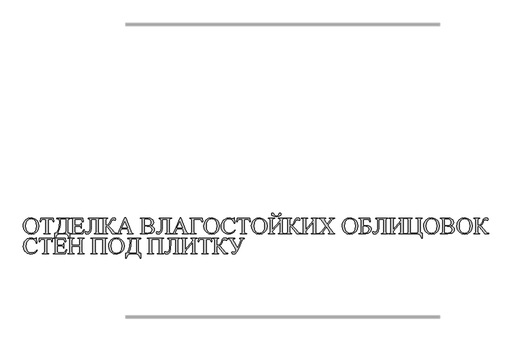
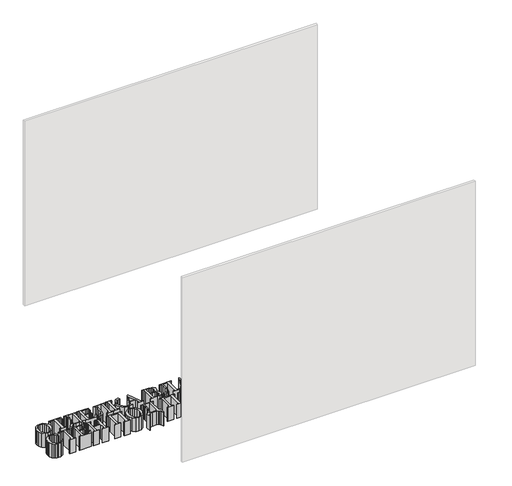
# One storey, part 11 of 17: 1 proxy.
"""IFC4 building model written with IfcOpenShell, lengths in millimetres."""

from ifc_helpers import new_model, si_unit, origin, origin_with_axes, place, context, project, spatial, polyline, outline, extrude, element, save

model = new_model("IFC4")

# Units and contexts
model_context = context("Model", 3, world=origin())
ifc_project = project(units=[si_unit("LENGTHUNIT", "METRE", prefix="MILLI")], contexts=[model_context])

# Site, building, storey
site = spatial("IfcSite", under=ifc_project)
building = spatial("IfcBuilding", under=site)
storey = spatial("IfcBuildingStorey", under=building, Name="Уровень 1", Elevation=0.0)

# Proxy
placement = place(None, origin())
element("IfcBuildingElementProxy", 1, Name="SG_Текст 2", ObjectType="SG_Текст 2", at=placement, inside=storey, context=model_context, shape_type="SweptSolid", body=[
    extrude(outline(polyline([(-694.4542029, 12219.3850863), (-666.748358, 12213.9243699), (-643.0048009, 12197.5422205), (-626.682991, 12172.994138), (-621.2423877, 12143.0356218), (-626.7232173, 12112.2273257), (-643.165706, 12087.1412168), (-667.3919784, 12070.4724553), (-696.2241589, 12064.9162014), (-725.2021597, 12070.3366916), (-749.1418199, 12086.5981621), (-765.2071873, 12111.4680548), (-770.5623098, 12142.7138117), (-769.0161124, 12159.485653), (-764.3775204, 12174.6434152), (-756.6465337, 12188.1870981), (-745.8231524, 12200.116702), (-722.2405004, 12214.5679902), (-694.4542029, 12219.3850863)]), holes=[polyline([(-696.5861954, 12211.6616421), (-715.0299411, 12207.9809382), (-729.4108334, 12196.9388265), (-740.9658301, 12174.3417181), (-744.8174956, 12143.2367532), (-740.8250381, 12111.1965275), (-728.8476656, 12087.4831401), (-714.6176218, 12076.3505193), (-696.4655165, 12072.6396457), (-676.8552089, 12076.7024992), (-660.9859445, 12088.8910596), (-650.4868875, 12109.8388908), (-646.9872019, 12140.1795565), (-650.8388674, 12173.3260047), (-662.3938641, 12196.8181476), (-677.1166797, 12207.9507685), (-696.5861954, 12211.6616421)])]), origin_with_axes(), (0.0, 0.0, 1.0), 150.0),
    extrude(outline(polyline([(-482.2203913, 12216.8106049), (-479.6459099, 12183.3423465), (-483.8294422, 12183.3423465), (-487.2486753, 12196.6170163), (-496.6012836, 12206.0500771), (-512.028059, 12209.0871606), (-533.7100196, 12209.0871606), (-533.7100196, 12093.235497), (-530.813728, 12074.9727695), (-518.1826786, 12070.0651643), (-513.1141683, 12070.0651643), (-513.1141683, 12067.4906828), (-574.9017223, 12067.4906828), (-574.9017223, 12070.0651643), (-569.7527594, 12070.0651643), (-561.8784667, 12071.583706), (-556.679221, 12076.1393313), (-554.3058709, 12093.235497), (-554.3058709, 12209.0871606), (-572.1663357, 12209.0871606), (-586.9696039, 12207.5585623), (-596.744588, 12199.4931947), (-601.5717407, 12183.3423465), (-605.7954992, 12183.3423465), (-603.2210178, 12216.8106049), (-482.2203913, 12216.8106049)])), origin_with_axes(), (0.0, 0.0, 1.0), 150.0),
    extrude(outline(polyline([(-448.7521329, 12216.8106049), (-325.1770251, 12216.8106049), (-325.1770251, 12211.6616421), (-342.0921725, 12207.2769784), (-345.7728764, 12188.6924407), (-345.7728764, 12106.4699405), (-343.0173767, 12076.9840831), (-337.179539, 12072.7603245), (-325.1770251, 12071.352405), (-325.1770251, 12023.7244988), (-330.3259879, 12023.7244988), (-340.6038004, 12050.4950829), (-348.1763961, 12058.9677414), (-356.6943092, 12064.0714497), (-378.235478, 12067.4906828), (-415.0827432, 12067.4906828), (-436.0506875, 12064.04128), (-450.6025415, 12053.6930715), (-459.6735658, 12039.3021227), (-464.1990214, 12023.7244988), (-469.3479843, 12023.7244988), (-469.3479843, 12071.352405), (-453.9966332, 12077.3964023), (-441.813101, 12092.4711978), (-432.837614, 12114.2939504), (-427.1103986, 12140.5818193), (-423.0073188, 12187.3649737), (-425.8633841, 12203.4554825), (-432.641511, 12209.9117992), (-448.7521329, 12211.6616421), (-448.7521329, 12216.8106049)]), holes=[polyline([(-410.1349117, 12209.0871606), (-414.0971995, 12153.1676141), (-420.5132899, 12116.8684318), (-429.4636355, 12093.2103556), (-441.0286887, 12075.2141271), (-386.6427688, 12075.2141271), (-369.2449061, 12077.8087216), (-366.3687277, 12094.7238691), (-366.3687277, 12209.0871606), (-410.1349117, 12209.0871606)])]), origin_with_axes(), (0.0, 0.0, 1.0), 150.0),
    extrude(outline(polyline([(-276.2618782, 12209.0871606), (-276.2618782, 12149.8740881), (-240.2191384, 12149.8740881), (-223.3643304, 12153.5346789), (-218.949497, 12160.1820703), (-217.0488056, 12170.4699394), (-214.4743242, 12170.4699394), (-214.4743242, 12121.5547925), (-217.0488056, 12121.5547925), (-220.1060023, 12134.5076522), (-226.5019796, 12140.1192171), (-240.2191384, 12142.1506439), (-276.2618782, 12142.1506439), (-276.2618782, 12092.1896139), (-275.3366739, 12079.9608272), (-272.098459, 12076.5013678), (-263.3492448, 12075.2141271), (-236.7999052, 12075.2141271), (-217.5114078, 12077.0645356), (-205.9463545, 12084.3857171), (-191.3039915, 12106.1079041), (-186.1550287, 12106.1079041), (-199.7515086, 12067.4906828), (-317.4535808, 12067.4906828), (-317.4535808, 12070.0651643), (-312.3448443, 12070.0651643), (-302.6905389, 12072.7200982), (-298.0846308, 12078.2109844), (-296.8577295, 12093.235497), (-296.8577295, 12191.0657907), (-299.6333423, 12209.5698759), (-312.3448443, 12214.2361235), (-317.4535808, 12214.2361235), (-317.4535808, 12216.8106049), (-201.6019172, 12216.8106049), (-199.0274357, 12183.3423465), (-204.1763986, 12183.3423465), (-209.4460402, 12200.3178333), (-218.0142362, 12207.3574309), (-234.0242925, 12209.0871606), (-276.2618782, 12209.0871606)])), origin_with_axes(), (0.0, 0.0, 1.0), 150.0),
    extrude(outline(polyline([(-72.8778464, 12209.0871606), (-119.2185119, 12209.0871606), (-119.2185119, 12166.8898012), (-122.0041812, 12114.2185262), (-130.3611893, 12083.9633413), (-143.6157459, 12069.6779864), (-161.0940612, 12064.9162014), (-173.926242, 12068.8986024), (-178.4315844, 12078.150645), (-175.5352928, 12085.1299032), (-168.4956952, 12088.0865342), (-160.5711196, 12084.4259434), (-151.5202084, 12080.3630899), (-142.6855134, 12084.3605757), (-135.650944, 12096.3530331), (-131.0500642, 12119.4982244), (-129.5164376, 12156.953912), (-129.5164376, 12188.4108568), (-133.1971414, 12207.2367521), (-150.1122889, 12211.6616421), (-150.1122889, 12216.8106049), (-31.6861438, 12216.8106049), (-31.6861438, 12214.2361235), (-48.6012912, 12209.8313467), (-52.2819951, 12191.0657907), (-52.2819951, 12093.235497), (-48.6012912, 12074.4699411), (-31.6861438, 12070.0651643), (-31.6861438, 12067.4906828), (-93.4736977, 12067.4906828), (-93.4736977, 12070.0651643), (-76.5585503, 12074.4699411), (-72.8778464, 12093.235497), (-72.8778464, 12209.0871606)])), origin_with_axes(), (0.0, 0.0, 1.0), 150.0),
    extrude(outline(polyline([(121.4150478, 12071.5937626), (121.4150478, 12067.4906828), (82.4357901, 12067.4906828), (55.6450929, 12105.3234918), (30.7450305, 12136.2977213), (17.2290031, 12139.5761624), (17.2290031, 12093.235497), (20.8493676, 12074.4699411), (37.8248544, 12070.0651643), (37.8248544, 12067.4906828), (-23.9626996, 12067.4906828), (-23.9626996, 12070.0651643), (-7.0877784, 12074.4297148), (-3.3668482, 12093.235497), (-3.3668482, 12191.0657907), (-7.0475521, 12209.8313467), (-23.9626996, 12214.2361235), (-23.9626996, 12216.8106049), (37.8248544, 12216.8106049), (37.8248544, 12214.2361235), (20.8493676, 12209.8313467), (17.2290031, 12191.0657907), (17.2290031, 12147.2996067), (34.1039242, 12148.9287707), (44.6432075, 12155.8476895), (53.9153632, 12167.4931953), (62.6846905, 12188.0085941), (70.8908501, 12206.633358), (81.1083232, 12215.6239299), (97.8424524, 12219.3850863), (110.7550857, 12216.2876633), (115.0592968, 12206.9953945), (111.6601768, 12199.4328553), (103.8763932, 12196.2147536), (93.3773362, 12200.277607), (84.3666512, 12203.9381978), (78.2120316, 12200.1971545), (70.0460983, 12181.1299015), (57.8575379, 12157.7483809), (42.6922333, 12144.8055778), (53.3924217, 12136.0161374), (69.3220254, 12116.2449246), (98.4056202, 12080.6849001), (108.8644509, 12074.0073389), (121.4150478, 12071.5937626)])), origin_with_axes(), (0.0, 0.0, 1.0), 150.0),
    extrude(outline(polyline([(226.6872019, 12116.4058297), (168.4395599, 12116.4058297), (158.8254809, 12094.0400224), (155.0844376, 12080.1217323), (158.3427656, 12073.6855287), (172.4219608, 12070.0651643), (172.4219608, 12067.4906828), (124.9549598, 12067.4906828), (124.9549598, 12070.0651643), (137.1032939, 12074.7314118), (149.6136646, 12098.1028759), (201.9882708, 12219.3850863), (207.4992701, 12219.3850863), (256.6557746, 12096.1317886), (268.1202622, 12075.4152584), (282.440815, 12070.0651643), (282.440815, 12067.4906828), (223.4288739, 12067.4906828), (223.4288739, 12070.0651643), (235.5168686, 12073.3838317), (238.674631, 12080.2826374), (234.2497411, 12097.4190293), (226.6872019, 12116.4058297)]), holes=[polyline([(223.5897789, 12124.129274), (198.7299428, 12184.750266), (171.7783405, 12124.129274), (223.5897789, 12124.129274)])]), origin_with_axes(), (0.0, 0.0, 1.0), 150.0),
    extrude(outline(polyline([(448.897129, 12142.8344905), (462.6142878, 12138.5906188), (472.3892719, 12132.3756597), (480.5049223, 12121.2430389), (483.2101391, 12107.87786), (481.455268, 12097.1223605), (476.1906546, 12086.8194066), (467.8688446, 12078.1053904), (456.9423834, 12072.1167041), (419.5721766, 12067.4906828), (349.3371055, 12067.4906828), (349.3371055, 12070.0651643), (354.6871997, 12070.0651643), (362.3603611, 12071.6038192), (367.5193805, 12076.2197839), (369.9329569, 12093.235497), (369.9329569, 12191.0657907), (366.8757602, 12209.2078395), (354.6871997, 12214.2361235), (349.3371055, 12214.2361235), (349.3371055, 12216.8106049), (413.2164256, 12216.8106049), (441.8977576, 12214.1556709), (456.3289328, 12208.5893605), (466.8782726, 12199.9356837), (473.3345893, 12188.9689963), (475.4866948, 12176.463654), (473.8022197, 12165.7131827), (468.7487943, 12156.1493866), (460.4169277, 12148.3354332), (448.897129, 12142.8344905)]), holes=[polyline([(390.5288082, 12148.8684313), (399.9417558, 12147.7018694), (411.5671485, 12147.2996067), (436.044835, 12150.7992924), (442.8732447, 12155.2241823), (446.9863811, 12161.4994807), (449.7418807, 12177.2681794), (447.1774559, 12189.4919378), (439.4841813, 12199.7747786), (426.873245, 12206.7590651), (409.5558349, 12209.0871606), (390.5288082, 12206.633358), (390.5288082, 12148.8684313)]), polyline([(390.5288082, 12078.150645), (416.072491, 12075.2141271), (433.8675881, 12077.4316003), (446.8657022, 12084.0840201), (454.8154193, 12093.9947679), (457.4653249, 12105.9872252), (452.6180592, 12122.5001099), (446.2824213, 12129.600047), (436.9700393, 12135.0104806), (410.2396815, 12139.5761624), (398.4332706, 12139.354918), (390.5288082, 12138.6107319), (390.5288082, 12078.150645)])]), origin_with_axes(), (0.0, 0.0, 1.0), 150.0),
    extrude(outline(polyline([(606.785247, 12209.0871606), (560.4445815, 12209.0871606), (560.4445815, 12166.8898012), (557.6589122, 12114.2185262), (549.3019041, 12083.9633413), (536.0473475, 12069.6779864), (518.5690323, 12064.9162014), (505.7368515, 12068.8986024), (501.231509, 12078.150645), (504.1278006, 12085.1299032), (511.1673982, 12088.0865342), (519.0919738, 12084.4259434), (528.142885, 12080.3630899), (536.97758, 12084.3605757), (544.0121494, 12096.3530331), (548.6130292, 12119.4982244), (550.1466559, 12156.953912), (550.1466559, 12188.4108568), (546.465952, 12207.2367521), (529.5508045, 12211.6616421), (529.5508045, 12216.8106049), (647.9769496, 12216.8106049), (647.9769496, 12214.2361235), (631.0618022, 12209.8313467), (627.3810983, 12191.0657907), (627.3810983, 12093.235497), (631.0618022, 12074.4699411), (647.9769496, 12070.0651643), (647.9769496, 12067.4906828), (586.1893957, 12067.4906828), (586.1893957, 12070.0651643), (603.1045431, 12074.4699411), (606.785247, 12093.235497), (606.785247, 12209.0871606)])), origin_with_axes(), (0.0, 0.0, 1.0), 150.0),
    extrude(outline(polyline([(754.4558919, 12116.4058297), (696.2082499, 12116.4058297), (686.5941708, 12094.0400224), (682.8531275, 12080.1217323), (686.1114556, 12073.6855287), (700.1906508, 12070.0651643), (700.1906508, 12067.4906828), (652.7236497, 12067.4906828), (652.7236497, 12070.0651643), (664.8719839, 12074.7314118), (677.3823545, 12098.1028759), (729.7569608, 12219.3850863), (735.2679601, 12219.3850863), (784.4244646, 12096.1317886), (795.8889521, 12075.4152584), (810.209505, 12070.0651643), (810.209505, 12067.4906828), (751.1975638, 12067.4906828), (751.1975638, 12070.0651643), (763.2855586, 12073.3838317), (766.4433209, 12080.2826374), (762.018431, 12097.4190293), (754.4558919, 12116.4058297)]), holes=[polyline([(751.3584689, 12124.129274), (726.4986328, 12184.750266), (699.5470304, 12124.129274), (751.3584689, 12124.129274)])]), origin_with_axes(), (0.0, 0.0, 1.0), 150.0),
    extrude(outline(polyline([(943.3986919, 12216.8106049), (944.0423123, 12183.3423465), (938.8933494, 12183.3423465), (934.1265362, 12199.6540998), (923.6475923, 12207.4378835), (905.706675, 12209.0871606), (861.658907, 12209.0871606), (861.658907, 12093.235497), (865.3194978, 12074.4699411), (882.2547583, 12070.0651643), (882.2547583, 12067.4906828), (820.4672044, 12067.4906828), (820.4672044, 12070.0651643), (837.3823518, 12074.4699411), (841.0630557, 12093.235497), (841.0630557, 12191.0657907), (837.3823518, 12209.8313467), (820.4672044, 12214.2361235), (820.4672044, 12216.8106049), (943.3986919, 12216.8106049)])), origin_with_axes(), (0.0, 0.0, 1.0), 150.0),
    extrude(outline(polyline([(1033.0228262, 12219.3850863), (1060.7286711, 12213.9243699), (1084.4722282, 12197.5422205), (1100.7940381, 12172.994138), (1106.2346414, 12143.0356218), (1100.7538118, 12112.2273257), (1084.3113231, 12087.1412168), (1060.0850507, 12070.4724553), (1031.2528702, 12064.9162014), (1002.2748694, 12070.3366916), (978.3352092, 12086.5981621), (962.2698418, 12111.4680548), (956.9147193, 12142.7138117), (958.4609167, 12159.485653), (963.0995087, 12174.6434152), (970.8304954, 12188.1870981), (981.6538767, 12200.116702), (1005.2365287, 12214.5679902), (1033.0228262, 12219.3850863)]), holes=[polyline([(1030.8908337, 12211.6616421), (1012.447088, 12207.9809382), (998.0661957, 12196.9388265), (986.511199, 12174.3417181), (982.6595335, 12143.2367532), (986.651991, 12111.1965275), (998.6293635, 12087.4831401), (1012.8594073, 12076.3505193), (1031.0115126, 12072.6396457), (1050.6218202, 12076.7024992), (1066.4910845, 12088.8910596), (1076.9901416, 12109.8388908), (1080.4898272, 12140.1795565), (1076.6381617, 12173.3260047), (1065.083165, 12196.8181476), (1050.3603494, 12207.9507685), (1030.8908337, 12211.6616421)])]), origin_with_axes(), (0.0, 0.0, 1.0), 150.0),
    extrude(outline(polyline([(1247.8311192, 12219.3850863), (1250.4056006, 12167.895458), (1247.8311192, 12167.895458), (1239.7204971, 12187.9231132), (1228.7437531, 12201.4240558), (1215.1020185, 12209.1022455), (1198.9964248, 12211.6616421), (1185.1334458, 12209.8062053), (1172.6683298, 12204.2398949), (1162.1592162, 12194.6057027), (1154.1642446, 12180.5466206), (1149.1108192, 12162.2889213), (1147.426344, 12140.0588777), (1149.0303666, 12121.4341137), (1153.8424344, 12105.4642837), (1161.8826606, 12092.5315372), (1173.1711582, 12083.0180239), (1186.9888826, 12077.1651013), (1202.6167893, 12075.2141271), (1227.9794539, 12080.9061446), (1239.5193657, 12089.4089729), (1252.1353303, 12103.5334226), (1255.5545634, 12100.9589412), (1243.4414272, 12084.7628384), (1229.467826, 12073.5849631), (1213.1611009, 12067.0833918), (1194.0485934, 12064.9162014), (1176.6079903, 12066.6182756), (1161.254125, 12071.724498), (1147.9869977, 12080.2348687), (1136.8066082, 12092.1493876), (1125.4627994, 12114.2134979), (1121.6815299, 12139.8577464), (1124.180587, 12161.0821332), (1131.6777585, 12180.5063943), (1143.5595936, 12196.9438547), (1159.2126417, 12209.2078395), (1177.5658784, 12216.8407746), (1197.5482791, 12219.3850863), (1229.4074866, 12213.4718243), (1236.0045952, 12211.6616421), (1241.1937843, 12213.2304667), (1245.2566378, 12219.3850863), (1247.8311192, 12219.3850863)])), origin_with_axes(), (0.0, 0.0, 1.0), 150.0),
    extrude(outline(polyline([(1397.1510412, 12216.8106049), (1399.7255226, 12183.3423465), (1395.5419903, 12183.3423465), (1392.1227572, 12196.6170163), (1382.7701489, 12206.0500771), (1367.3433736, 12209.0871606), (1345.6614129, 12209.0871606), (1345.6614129, 12093.235497), (1348.5577045, 12074.9727695), (1361.188754, 12070.0651643), (1366.2572642, 12070.0651643), (1366.2572642, 12067.4906828), (1304.4697103, 12067.4906828), (1304.4697103, 12070.0651643), (1309.6186731, 12070.0651643), (1317.4929659, 12071.583706), (1322.6922116, 12076.1393313), (1325.0655616, 12093.235497), (1325.0655616, 12209.0871606), (1307.2050968, 12209.0871606), (1292.4018287, 12207.5585623), (1282.6268445, 12199.4931947), (1277.7996919, 12183.3423465), (1273.5759333, 12183.3423465), (1276.1504147, 12216.8106049), (1397.1510412, 12216.8106049)])), origin_with_axes(), (0.0, 0.0, 1.0), 150.0),
    extrude(outline(polyline([(1488.7060365, 12219.3850863), (1516.4118814, 12213.9243699), (1540.1554385, 12197.5422205), (1556.4772484, 12172.994138), (1561.9178517, 12143.0356218), (1556.4370222, 12112.2273257), (1539.9945334, 12087.1412168), (1515.7682611, 12070.4724553), (1486.9360805, 12064.9162014), (1457.9580798, 12070.3366916), (1434.0184196, 12086.5981621), (1417.9530522, 12111.4680548), (1412.5979297, 12142.7138117), (1414.144127, 12159.485653), (1418.782719, 12174.6434152), (1426.5137057, 12188.1870981), (1437.337087, 12200.116702), (1460.9197391, 12214.5679902), (1488.7060365, 12219.3850863)]), holes=[polyline([(1486.5740441, 12211.6616421), (1468.1302983, 12207.9809382), (1453.7494061, 12196.9388265), (1442.1944094, 12174.3417181), (1438.3427438, 12143.2367532), (1442.3352014, 12111.1965275), (1454.3125739, 12087.4831401), (1468.5426176, 12076.3505193), (1486.6947229, 12072.6396457), (1506.3050306, 12076.7024992), (1522.1742949, 12088.8910596), (1532.6733519, 12109.8388908), (1536.1730376, 12140.1795565), (1532.321372, 12173.3260047), (1520.7663754, 12196.8181476), (1506.0435598, 12207.9507685), (1486.5740441, 12211.6616421)])]), origin_with_axes(), (0.0, 0.0, 1.0), 150.0),
    extrude(outline(polyline([(1686.8606529, 12265.7257518), (1693.1560645, 12262.8294602), (1695.7908853, 12255.9909939), (1693.0906968, 12246.9400827), (1684.9901312, 12239.2568647), (1671.0265865, 12234.0073362), (1650.7374605, 12232.2574934), (1630.3729103, 12234.0073362), (1616.4244504, 12239.2568647), (1608.3691395, 12246.9400827), (1605.6840358, 12255.9909939), (1608.2585172, 12262.7691208), (1614.734947, 12265.7257518), (1621.3521688, 12262.9702521), (1629.1359524, 12250.8018048), (1638.0561283, 12240.7552934), (1650.7374605, 12237.4064562), (1663.3584534, 12240.7552934), (1672.3389687, 12250.8018048), (1679.9417341, 12263.0305915), (1686.8606529, 12265.7257518)])), origin_with_axes(), (0.0, 0.0, 1.0), 150.0),
    extrude(outline(polyline([(1688.067441, 12191.0657907), (1683.9844744, 12210.2134963), (1667.4715897, 12214.2361235), (1667.4715897, 12216.8106049), (1729.2591437, 12216.8106049), (1729.2591437, 12214.2361235), (1712.3439963, 12209.8313467), (1708.6632924, 12191.0657907), (1708.6632924, 12093.235497), (1712.3439963, 12074.4699411), (1729.2591437, 12070.0651643), (1729.2591437, 12067.4906828), (1667.4715897, 12067.4906828), (1667.4715897, 12070.0651643), (1684.4470766, 12074.5302805), (1688.067441, 12093.235497), (1688.067441, 12178.1933837), (1613.40748, 12093.235497), (1614.6142682, 12078.4121157), (1619.7230048, 12072.4787406), (1634.0033313, 12070.0651643), (1634.0033313, 12067.4906828), (1572.2157774, 12067.4906828), (1572.2157774, 12070.0651643), (1589.1309248, 12074.4699411), (1592.8116287, 12093.235497), (1592.8116287, 12191.0657907), (1589.1309248, 12209.8313467), (1572.2157774, 12214.2361235), (1572.2157774, 12216.8106049), (1634.0033313, 12216.8106049), (1634.0033313, 12214.2361235), (1617.0680708, 12209.8313467), (1613.40748, 12191.0657907), (1613.40748, 12106.1079041), (1688.067441, 12191.0657907)])), origin_with_axes(), (0.0, 0.0, 1.0), 150.0),
    extrude(outline(polyline([(1882.3603353, 12071.5937626), (1882.3603353, 12067.4906828), (1843.3810776, 12067.4906828), (1816.5903804, 12105.3234918), (1791.690318, 12136.2977213), (1778.1742906, 12139.5761624), (1778.1742906, 12093.235497), (1781.794655, 12074.4699411), (1798.7701419, 12070.0651643), (1798.7701419, 12067.4906828), (1736.9825879, 12067.4906828), (1736.9825879, 12070.0651643), (1753.8575091, 12074.4297148), (1757.5784392, 12093.235497), (1757.5784392, 12191.0657907), (1753.8977353, 12209.8313467), (1736.9825879, 12214.2361235), (1736.9825879, 12216.8106049), (1798.7701419, 12216.8106049), (1798.7701419, 12214.2361235), (1781.794655, 12209.8313467), (1778.1742906, 12191.0657907), (1778.1742906, 12147.2996067), (1795.0492117, 12148.9287707), (1805.588495, 12155.8476895), (1814.8606507, 12167.4931953), (1823.629978, 12188.0085941), (1831.8361375, 12206.633358), (1842.0536107, 12215.6239299), (1858.7877398, 12219.3850863), (1871.7003732, 12216.2876633), (1876.0045843, 12206.9953945), (1872.6054643, 12199.4328553), (1864.8216807, 12196.2147536), (1854.3226236, 12200.277607), (1845.3119387, 12203.9381978), (1839.1573191, 12200.1971545), (1830.9913858, 12181.1299015), (1818.8028254, 12157.7483809), (1803.6375208, 12144.8055778), (1814.3377092, 12136.0161374), (1830.2673129, 12116.2449246), (1859.3509077, 12080.6849001), (1869.8097384, 12074.0073389), (1882.3603353, 12071.5937626)])), origin_with_axes(), (0.0, 0.0, 1.0), 150.0),
    extrude(outline(polyline([(2004.728655, 12191.0657907), (2000.6456884, 12210.2134963), (1984.1328037, 12214.2361235), (1984.1328037, 12216.8106049), (2045.9203577, 12216.8106049), (2045.9203577, 12214.2361235), (2029.0052102, 12209.8313467), (2025.3245063, 12191.0657907), (2025.3245063, 12093.235497), (2029.0052102, 12074.4699411), (2045.9203577, 12070.0651643), (2045.9203577, 12067.4906828), (1984.1328037, 12067.4906828), (1984.1328037, 12070.0651643), (2001.1082905, 12074.5302805), (2004.728655, 12093.235497), (2004.728655, 12178.1933837), (1930.068694, 12093.235497), (1931.2754822, 12078.4121157), (1936.3842187, 12072.4787406), (1950.6645453, 12070.0651643), (1950.6645453, 12067.4906828), (1888.8769914, 12067.4906828), (1888.8769914, 12070.0651643), (1905.7921388, 12074.4699411), (1909.4728427, 12093.235497), (1909.4728427, 12191.0657907), (1905.7921388, 12209.8313467), (1888.8769914, 12214.2361235), (1888.8769914, 12216.8106049), (1950.6645453, 12216.8106049), (1950.6645453, 12214.2361235), (1933.7292848, 12209.8313467), (1930.068694, 12191.0657907), (1930.068694, 12106.1079041), (2004.728655, 12191.0657907)])), origin_with_axes(), (0.0, 0.0, 1.0), 150.0),
    extrude(outline(polyline([(2142.5840895, 12149.9143144), (2174.6444284, 12102.5679921), (2194.5162068, 12076.1594445), (2210.9285258, 12070.0651643), (2210.9285258, 12067.4906828), (2147.7732786, 12067.4906828), (2147.7732786, 12070.0651643), (2157.2666788, 12071.4730838), (2161.0881747, 12074.7314118), (2162.5765468, 12079.1563018), (2161.6111162, 12084.5868485), (2155.4967229, 12095.005453), (2129.7519087, 12133.0192801), (2099.0592631, 12092.7527817), (2093.0856617, 12083.7219836), (2092.100118, 12079.0356229), (2095.0768622, 12072.8608902), (2106.4608972, 12070.0651643), (2106.4608972, 12067.4906828), (2052.7588239, 12067.4906828), (2052.7588239, 12070.0651643), (2062.4935818, 12072.5189669), (2075.5268939, 12080.7452395), (2089.6865417, 12096.5742776), (2123.9593255, 12141.5874761), (2094.8355045, 12185.1525287), (2074.360332, 12208.3832009), (2055.0114952, 12214.2361235), (2055.0114952, 12216.8106049), (2123.9995518, 12216.8106049), (2123.9995518, 12214.2361235), (2111.8914439, 12211.1387005), (2108.6331159, 12205.0645334), (2113.9429838, 12192.1921264), (2136.7915063, 12158.4422841), (2163.3408459, 12193.2782357), (2169.0529766, 12201.3838295), (2170.0988596, 12205.9092851), (2168.7713927, 12209.9721386), (2164.5677472, 12213.1902404), (2154.0485771, 12214.2361235), (2154.0485771, 12216.8106049), (2207.3483876, 12216.8106049), (2207.3483876, 12214.2361235), (2197.0504619, 12212.1845836), (2186.1089159, 12205.1852122), (2172.069947, 12188.8533458), (2142.5840895, 12149.9143144)])), origin_with_axes(), (0.0, 0.0, 1.0), 150.0),
    extrude(outline(polyline([(2356.3062732, 12219.3850863), (2384.0121181, 12213.9243699), (2407.7556752, 12197.5422205), (2424.0774851, 12172.994138), (2429.5180884, 12143.0356218), (2424.0372588, 12112.2273257), (2407.5947701, 12087.1412168), (2383.3684977, 12070.4724553), (2354.5363172, 12064.9162014), (2325.5583165, 12070.3366916), (2301.6186563, 12086.5981621), (2285.5532888, 12111.4680548), (2280.1981664, 12142.7138117), (2281.7443637, 12159.485653), (2286.3829557, 12174.6434152), (2294.1139424, 12188.1870981), (2304.9373237, 12200.116702), (2328.5199757, 12214.5679902), (2356.3062732, 12219.3850863)]), holes=[polyline([(2354.1742808, 12211.6616421), (2335.730535, 12207.9809382), (2321.3496427, 12196.9388265), (2309.7946461, 12174.3417181), (2305.9429805, 12143.2367532), (2309.935438, 12111.1965275), (2321.9128105, 12087.4831401), (2336.1428543, 12076.3505193), (2354.2949596, 12072.6396457), (2373.9052672, 12076.7024992), (2389.7745316, 12088.8910596), (2400.2735886, 12109.8388908), (2403.7732743, 12140.1795565), (2399.9216087, 12173.3260047), (2388.3666121, 12196.8181476), (2373.6437965, 12207.9507685), (2354.1742808, 12211.6616421)])]), origin_with_axes(), (0.0, 0.0, 1.0), 150.0),
    extrude(outline(polyline([(2545.9329199, 12216.8106049), (2547.9442335, 12183.3423465), (2542.7952706, 12183.3423465), (2538.3452393, 12196.9941376), (2531.9945166, 12204.561705), (2521.8524677, 12207.9557967), (2506.0284579, 12209.0871606), (2481.0077167, 12209.0871606), (2481.0077167, 12149.8740881), (2487.1221101, 12149.8740881), (2528.4344915, 12146.3945156), (2540.4068357, 12141.320977), (2549.9354339, 12133.0595064), (2556.1654778, 12122.218526), (2558.2421591, 12109.4064584), (2555.1497645, 12093.7332971), (2545.8725805, 12080.1016191), (2529.0228007, 12070.6434169), (2503.2126189, 12067.4906828), (2439.8160141, 12067.4906828), (2439.8160141, 12070.0651643), (2456.7311615, 12074.4699411), (2460.4118654, 12093.235497), (2460.4118654, 12191.0657907), (2458.7827014, 12206.4121135), (2453.4728334, 12212.0236785), (2439.8160141, 12214.2361235), (2439.8160141, 12216.8106049), (2545.9329199, 12216.8106049)]), holes=[polyline([(2481.0077167, 12076.7829517), (2496.3741526, 12075.2141271), (2509.5130588, 12077.4869115), (2521.3345545, 12084.3052646), (2529.7066474, 12095.1361883), (2532.497345, 12109.4466846), (2529.5809403, 12123.9432275), (2520.8317261, 12134.1255026), (2507.5972826, 12140.1443585), (2491.2251898, 12142.1506439), (2481.0077167, 12141.2656659), (2481.0077167, 12076.7829517)])]), origin_with_axes(), (0.0, 0.0, 1.0), 150.0),
    extrude(outline(polyline([(2676.6683042, 12209.0871606), (2630.3276387, 12209.0871606), (2630.3276387, 12166.8898012), (2627.5419694, 12114.2185262), (2619.1849614, 12083.9633413), (2605.9304047, 12069.6779864), (2588.4520895, 12064.9162014), (2575.6199087, 12068.8986024), (2571.1145662, 12078.150645), (2574.0108578, 12085.1299032), (2581.0504554, 12088.0865342), (2588.975031, 12084.4259434), (2598.0259422, 12080.3630899), (2606.8606373, 12084.3605757), (2613.8952066, 12096.3530331), (2618.4960865, 12119.4982244), (2620.0297131, 12156.953912), (2620.0297131, 12188.4108568), (2616.3490092, 12207.2367521), (2599.4338618, 12211.6616421), (2599.4338618, 12216.8106049), (2717.8600068, 12216.8106049), (2717.8600068, 12214.2361235), (2700.9448594, 12209.8313467), (2697.2641555, 12191.0657907), (2697.2641555, 12093.235497), (2700.9448594, 12074.4699411), (2717.8600068, 12070.0651643), (2717.8600068, 12067.4906828), (2656.0724529, 12067.4906828), (2656.0724529, 12070.0651643), (2672.9876003, 12074.4699411), (2676.6683042, 12093.235497), (2676.6683042, 12209.0871606)])), origin_with_axes(), (0.0, 0.0, 1.0), 150.0),
    extrude(outline(polyline([(2841.4351147, 12191.0657907), (2837.3521481, 12210.2134963), (2820.8392634, 12214.2361235), (2820.8392634, 12216.8106049), (2882.6268174, 12216.8106049), (2882.6268174, 12214.2361235), (2865.7116699, 12209.8313467), (2862.030966, 12191.0657907), (2862.030966, 12093.235497), (2865.7116699, 12074.4699411), (2882.6268174, 12070.0651643), (2882.6268174, 12067.4906828), (2820.8392634, 12067.4906828), (2820.8392634, 12070.0651643), (2837.8147502, 12074.5302805), (2841.4351147, 12093.235497), (2841.4351147, 12178.1933837), (2766.7751537, 12093.235497), (2767.9819419, 12078.4121157), (2773.0906784, 12072.4787406), (2787.371005, 12070.0651643), (2787.371005, 12067.4906828), (2725.5834511, 12067.4906828), (2725.5834511, 12070.0651643), (2742.4985985, 12074.4699411), (2746.1793024, 12093.235497), (2746.1793024, 12191.0657907), (2742.4985985, 12209.8313467), (2725.5834511, 12214.2361235), (2725.5834511, 12216.8106049), (2787.371005, 12216.8106049), (2787.371005, 12214.2361235), (2770.4357445, 12209.8313467), (2766.7751537, 12191.0657907), (2766.7751537, 12106.1079041), (2841.4351147, 12191.0657907)])), origin_with_axes(), (0.0, 0.0, 1.0), 150.0),
    extrude(outline(polyline([(3047.3936279, 12072.6396457), (3047.3936279, 12023.7244988), (3042.2446651, 12023.7244988), (3037.0755891, 12040.0060824), (3027.7632071, 12054.2562393), (3013.2515794, 12064.182072), (2992.4847665, 12067.4906828), (2890.3502616, 12067.4906828), (2890.3502616, 12070.0651643), (2907.265409, 12074.4699411), (2910.9461129, 12093.235497), (2910.9461129, 12191.0657907), (2907.265409, 12209.8313467), (2890.3502616, 12214.2361235), (2890.3502616, 12216.8106049), (2952.1378155, 12216.8106049), (2952.1378155, 12214.2361235), (2935.2226681, 12209.8313467), (2931.5419642, 12191.0657907), (2931.5419642, 12089.8967164), (2932.8493181, 12077.2254407), (2947.1899841, 12075.2141271), (2988.6230443, 12075.2141271), (3005.0152502, 12077.4064589), (3006.2019252, 12091.9884826), (3006.2019252, 12191.0657907), (3002.5614476, 12209.8313467), (2985.6060739, 12214.2361235), (2985.6060739, 12216.8106049), (3047.3936279, 12216.8106049), (3047.3936279, 12214.2361235), (3030.4784805, 12209.8313467), (3026.7977766, 12191.0657907), (3026.7977766, 12095.4881682), (3030.257236, 12076.4008021), (3047.3936279, 12072.6396457)])), origin_with_axes(), (0.0, 0.0, 1.0), 150.0),
    extrude(outline(polyline([(3136.3741418, 12219.3850863), (3164.0799867, 12213.9243699), (3187.8235438, 12197.5422205), (3204.1453537, 12172.994138), (3209.585957, 12143.0356218), (3204.1051274, 12112.2273257), (3187.6626387, 12087.1412168), (3163.4363663, 12070.4724553), (3134.6041858, 12064.9162014), (3105.626185, 12070.3366916), (3081.6865248, 12086.5981621), (3065.6211574, 12111.4680548), (3060.266035, 12142.7138117), (3061.8122323, 12159.485653), (3066.4508243, 12174.6434152), (3074.181811, 12188.1870981), (3085.0051923, 12200.116702), (3108.5878443, 12214.5679902), (3136.3741418, 12219.3850863)]), holes=[polyline([(3134.2421493, 12211.6616421), (3115.7984036, 12207.9809382), (3101.4175113, 12196.9388265), (3089.8625147, 12174.3417181), (3086.0108491, 12143.2367532), (3090.0033066, 12111.1965275), (3101.9806791, 12087.4831401), (3116.2107229, 12076.3505193), (3134.3628282, 12072.6396457), (3153.9731358, 12076.7024992), (3169.8424002, 12088.8910596), (3180.3414572, 12109.8388908), (3183.8411428, 12140.1795565), (3179.9894773, 12173.3260047), (3168.4344806, 12196.8181476), (3153.711665, 12207.9507685), (3134.2421493, 12211.6616421)])]), origin_with_axes(), (0.0, 0.0, 1.0), 150.0),
    extrude(outline(polyline([(3319.4439061, 12142.8344905), (3333.1610649, 12138.5906188), (3342.936049, 12132.3756597), (3351.0516994, 12121.2430389), (3353.7569162, 12107.87786), (3352.0020451, 12097.1223605), (3346.7374317, 12086.8194066), (3338.4156217, 12078.1053904), (3327.4891605, 12072.1167041), (3290.1189537, 12067.4906828), (3219.8838826, 12067.4906828), (3219.8838826, 12070.0651643), (3225.2339768, 12070.0651643), (3232.9071382, 12071.6038192), (3238.0661576, 12076.2197839), (3240.479734, 12093.235497), (3240.479734, 12191.0657907), (3237.4225373, 12209.2078395), (3225.2339768, 12214.2361235), (3219.8838826, 12214.2361235), (3219.8838826, 12216.8106049), (3283.7632027, 12216.8106049), (3312.4445348, 12214.1556709), (3326.8757099, 12208.5893605), (3337.4250497, 12199.9356837), (3343.8813664, 12188.9689963), (3346.033472, 12176.463654), (3344.3489968, 12165.7131827), (3339.2955714, 12156.1493866), (3330.9637048, 12148.3354332), (3319.4439061, 12142.8344905)]), holes=[polyline([(3261.0755853, 12148.8684313), (3270.488533, 12147.7018694), (3282.1139256, 12147.2996067), (3306.5916122, 12150.7992924), (3313.4200219, 12155.2241823), (3317.5331582, 12161.4994807), (3320.2886578, 12177.2681794), (3317.724233, 12189.4919378), (3310.0309584, 12199.7747786), (3297.4200221, 12206.7590651), (3280.102612, 12209.0871606), (3261.0755853, 12206.633358), (3261.0755853, 12148.8684313)]), polyline([(3261.0755853, 12078.150645), (3286.6192681, 12075.2141271), (3304.4143652, 12077.4316003), (3317.4124794, 12084.0840201), (3325.3621964, 12093.9947679), (3328.0121021, 12105.9872252), (3323.1648363, 12122.5001099), (3316.8291984, 12129.600047), (3307.5168164, 12135.0104806), (3280.7864586, 12139.5761624), (3268.9800477, 12139.354918), (3261.0755853, 12138.6107319), (3261.0755853, 12078.150645)])]), origin_with_axes(), (0.0, 0.0, 1.0), 150.0),
    extrude(outline(polyline([(3453.0353557, 12219.3850863), (3480.7412007, 12213.9243699), (3504.4847578, 12197.5422205), (3520.8065677, 12172.994138), (3526.247171, 12143.0356218), (3520.7663414, 12112.2273257), (3504.3238527, 12087.1412168), (3480.0975803, 12070.4724553), (3451.2653998, 12064.9162014), (3422.287399, 12070.3366916), (3398.3477388, 12086.5981621), (3382.2823714, 12111.4680548), (3376.9272489, 12142.7138117), (3378.4734463, 12159.485653), (3383.1120383, 12174.6434152), (3390.8430249, 12188.1870981), (3401.6664063, 12200.116702), (3425.2490583, 12214.5679902), (3453.0353557, 12219.3850863)]), holes=[polyline([(3450.9033633, 12211.6616421), (3432.4596176, 12207.9809382), (3418.0787253, 12196.9388265), (3406.5237286, 12174.3417181), (3402.6720631, 12143.2367532), (3406.6645206, 12111.1965275), (3418.6418931, 12087.4831401), (3432.8719369, 12076.3505193), (3451.0240421, 12072.6396457), (3470.6343498, 12076.7024992), (3486.5036141, 12088.8910596), (3497.0026712, 12109.8388908), (3500.5023568, 12140.1795565), (3496.6506913, 12173.3260047), (3485.0956946, 12196.8181476), (3470.372879, 12207.9507685), (3450.9033633, 12211.6616421)])]), origin_with_axes(), (0.0, 0.0, 1.0), 150.0),
    extrude(outline(polyline([(3681.922844, 12071.5937626), (3681.922844, 12067.4906828), (3642.9435863, 12067.4906828), (3616.1528891, 12105.3234918), (3591.2528267, 12136.2977213), (3577.7367993, 12139.5761624), (3577.7367993, 12093.235497), (3581.3571637, 12074.4699411), (3598.3326506, 12070.0651643), (3598.3326506, 12067.4906828), (3536.5450966, 12067.4906828), (3536.5450966, 12070.0651643), (3553.4200178, 12074.4297148), (3557.1409479, 12093.235497), (3557.1409479, 12191.0657907), (3553.460244, 12209.8313467), (3536.5450966, 12214.2361235), (3536.5450966, 12216.8106049), (3598.3326506, 12216.8106049), (3598.3326506, 12214.2361235), (3581.3571637, 12209.8313467), (3577.7367993, 12191.0657907), (3577.7367993, 12147.2996067), (3594.6117204, 12148.9287707), (3605.1510037, 12155.8476895), (3614.4231594, 12167.4931953), (3623.1924867, 12188.0085941), (3631.3986462, 12206.633358), (3641.6161194, 12215.6239299), (3658.3502485, 12219.3850863), (3671.2628819, 12216.2876633), (3675.567093, 12206.9953945), (3672.167973, 12199.4328553), (3664.3841894, 12196.2147536), (3653.8851323, 12200.277607), (3644.8744474, 12203.9381978), (3638.7198278, 12200.1971545), (3630.5538945, 12181.1299015), (3618.3653341, 12157.7483809), (3603.2000295, 12144.8055778), (3613.9002179, 12136.0161374), (3629.8298216, 12116.2449246), (3658.9134164, 12080.6849001), (3669.3722471, 12074.0073389), (3681.922844, 12071.5937626)])), origin_with_axes(), (0.0, 0.0, 1.0), 150.0),
    extrude(outline(polyline([(-644.4127204, 12028.1933837), (-641.838239, 11976.7037554), (-644.4127204, 11976.7037554), (-652.5233426, 11996.7314106), (-663.5000866, 12010.2323532), (-677.1418211, 12017.9105429), (-693.2474148, 12020.4699394), (-707.1103938, 12018.6145026), (-719.5755099, 12013.0481922), (-730.0846234, 12003.4140001), (-738.079595, 11989.354918), (-743.1330205, 11971.0972187), (-744.8174956, 11948.8671751), (-743.213473, 11930.2424111), (-738.4014052, 11914.2725811), (-730.3611791, 11901.3398346), (-719.0726815, 11891.8263212), (-705.254957, 11885.9733987), (-689.6270503, 11884.0224245), (-664.2643857, 11889.714442), (-652.7244739, 11898.2172702), (-640.1085093, 11912.34172), (-636.6892762, 11909.7672386), (-648.8024124, 11893.5711358), (-662.7760137, 11882.3932604), (-679.0827387, 11875.8916892), (-698.1952462, 11873.7244988), (-715.6358493, 11875.4265729), (-730.9897146, 11880.5327954), (-744.2568419, 11889.043166), (-755.4372314, 11900.957685), (-766.7810402, 11923.0217953), (-770.5623098, 11948.6660437), (-768.0632526, 11969.8904305), (-760.5660811, 11989.3146917), (-748.684246, 12005.7521521), (-733.0311979, 12018.0161368), (-714.6779612, 12025.649072), (-694.6955606, 12028.1933837), (-662.8363531, 12022.2801217), (-656.2392444, 12020.4699394), (-651.0500553, 12022.038764), (-646.9872019, 12028.1933837), (-644.4127204, 12028.1933837)])), origin_with_axes(), (0.0, 0.0, 1.0), 150.0),
    extrude(outline(polyline([(-495.0927984, 12025.6189023), (-492.518317, 11992.1506439), (-496.7018493, 11992.1506439), (-500.1210824, 12005.4253137), (-509.4736907, 12014.8583745), (-524.900466, 12017.895458), (-546.5824267, 12017.895458), (-546.5824267, 11902.0437944), (-543.6861351, 11883.7810668), (-531.0550857, 11878.8734616), (-525.9865754, 11878.8734616), (-525.9865754, 11876.2989802), (-587.7741293, 11876.2989802), (-587.7741293, 11878.8734616), (-582.6251665, 11878.8734616), (-574.7508737, 11880.3920034), (-569.5516281, 11884.9476287), (-567.178278, 11902.0437944), (-567.178278, 12017.895458), (-585.0387428, 12017.895458), (-599.842011, 12016.3668597), (-609.6169951, 12008.3014921), (-614.4441477, 11992.1506439), (-618.6679063, 11992.1506439), (-616.0934249, 12025.6189023), (-495.0927984, 12025.6189023)])), origin_with_axes(), (0.0, 0.0, 1.0), 150.0),
    extrude(outline(polyline([(-443.6031701, 12017.895458), (-443.6031701, 11958.6823855), (-407.5604303, 11958.6823855), (-390.7056223, 11962.3429762), (-386.2907889, 11968.9903677), (-384.3900976, 11979.2782368), (-381.8156162, 11979.2782368), (-381.8156162, 11930.3630899), (-384.3900976, 11930.3630899), (-387.4472943, 11943.3159495), (-393.8432715, 11948.9275145), (-407.5604303, 11950.9589412), (-443.6031701, 11950.9589412), (-443.6031701, 11900.9979113), (-442.6779659, 11888.7691246), (-439.439751, 11885.3096652), (-430.6905368, 11884.0224245), (-404.1411972, 11884.0224245), (-384.8526997, 11885.872833), (-373.2876465, 11893.1940145), (-358.6452834, 11914.9162014), (-353.4963206, 11914.9162014), (-367.0928006, 11876.2989802), (-484.7948727, 11876.2989802), (-484.7948727, 11878.8734616), (-479.6861362, 11878.8734616), (-470.0318309, 11881.5283956), (-465.4259227, 11887.0192817), (-464.1990214, 11902.0437944), (-464.1990214, 11999.8740881), (-466.9746342, 12018.3781733), (-479.6861362, 12023.0444208), (-484.7948727, 12023.0444208), (-484.7948727, 12025.6189023), (-368.9432091, 12025.6189023), (-366.3687277, 11992.1506439), (-371.5176905, 11992.1506439), (-376.7873322, 12009.1261307), (-385.3555281, 12016.1657283), (-401.3655844, 12017.895458), (-443.6031701, 12017.895458)])), origin_with_axes(), (0.0, 0.0, 1.0), 150.0),
    extrude(outline(polyline([(-304.5811737, 11956.1079041), (-229.9212127, 11956.1079041), (-229.9212127, 11999.8740881), (-231.288906, 12015.4416554), (-235.7540222, 12020.3090343), (-245.4083275, 12023.0444208), (-250.517064, 12023.0444208), (-250.517064, 12025.6189023), (-188.7295101, 12025.6189023), (-188.7295101, 12023.0444208), (-193.8382466, 12023.0444208), (-203.4925519, 12020.4297132), (-208.0984601, 12014.9187139), (-209.3253614, 11999.8740881), (-209.3253614, 11902.0437944), (-207.9576681, 11886.5164533), (-203.5730045, 11881.6088481), (-193.8382466, 11878.8734616), (-188.7295101, 11878.8734616), (-188.7295101, 11876.2989802), (-250.517064, 11876.2989802), (-250.517064, 11878.8734616), (-245.4083275, 11878.8734616), (-237.7955055, 11880.2713246), (-232.5761467, 11884.4649134), (-229.9212127, 11902.0437944), (-229.9212127, 11948.3844598), (-304.5811737, 11948.3844598), (-304.5811737, 11902.0437944), (-303.2134805, 11886.5164533), (-298.7885906, 11881.6088481), (-289.1745115, 11878.8734616), (-283.9853224, 11878.8734616), (-283.9853224, 11876.2989802), (-345.7728764, 11876.2989802), (-345.7728764, 11878.8734616), (-340.6641398, 11878.8734616), (-332.9809218, 11880.2713246), (-327.7112802, 11884.4649134), (-325.1770251, 11902.0437944), (-325.1770251, 11999.8740881), (-326.5447183, 12015.4416554), (-330.929382, 12020.3090343), (-340.6641398, 12023.0444208), (-345.7728764, 12023.0444208), (-345.7728764, 12025.6189023), (-283.9853224, 12025.6189023), (-283.9853224, 12023.0444208), (-289.1745115, 12023.0444208), (-298.7885906, 12020.4297132), (-303.3140462, 12014.9187139), (-304.5811737, 11999.8740881), (-304.5811737, 11956.1079041)])), origin_with_axes(), (0.0, 0.0, 1.0), 150.0),
    extrude(outline(polyline([(-8.5158111, 12017.895458), (-83.1757721, 12017.895458), (-83.1757721, 11902.0437944), (-79.5554076, 11883.2782384), (-62.5799208, 11878.8734616), (-62.5799208, 11876.2989802), (-124.3674747, 11876.2989802), (-124.3674747, 11878.8734616), (-107.4523273, 11883.2782384), (-103.7716234, 11902.0437944), (-103.7716234, 11999.8740881), (-107.4523273, 12018.639644), (-124.3674747, 12023.0444208), (-124.3674747, 12025.6189023), (32.6758916, 12025.6189023), (32.6758916, 12023.0444208), (15.7607441, 12018.639644), (12.0800402, 11999.8740881), (12.0800402, 11902.0437944), (15.7607441, 11883.2782384), (32.6758916, 11878.8734616), (32.6758916, 11876.2989802), (-29.1116624, 11876.2989802), (-29.1116624, 11878.8734616), (-12.2166281, 11883.2380122), (-8.5158111, 11902.0437944), (-8.5158111, 12017.895458)])), origin_with_axes(), (0.0, 0.0, 1.0), 150.0),
    extrude(outline(polyline([(121.6564054, 12028.1933837), (149.3622504, 12022.7326672), (173.1058075, 12006.3505179), (189.4276174, 11981.8024354), (194.8682207, 11951.8439192), (189.3873911, 11921.0356231), (172.9449024, 11895.9495141), (148.71863, 11879.2807526), (119.8864495, 11873.7244988), (90.9084487, 11879.144989), (66.9687885, 11895.4064595), (50.9034211, 11920.2763522), (45.5482986, 11951.522109), (47.094496, 11968.2939504), (51.733088, 11983.4517125), (59.4640746, 11996.9953955), (70.287456, 12008.9249993), (93.870108, 12023.3762876), (121.6564054, 12028.1933837)]), holes=[polyline([(119.524413, 12020.4699394), (101.0806673, 12016.7892355), (86.699775, 12005.7471238), (75.1447783, 11983.1500155), (71.2931128, 11952.0450506), (75.2855703, 11920.0048249), (87.2629428, 11896.2914374), (101.4929866, 11885.1588166), (119.6450918, 11881.447943), (139.2553995, 11885.5107965), (155.1246638, 11897.699357), (165.6237209, 11918.6471882), (169.1234065, 11948.9878539), (165.271741, 11982.1343021), (153.7167443, 12005.626445), (138.9939287, 12016.7590658), (119.524413, 12020.4699394)])]), origin_with_axes(), (0.0, 0.0, 1.0), 150.0),
    extrude(outline(polyline([(228.3364791, 12025.6189023), (351.911587, 12025.6189023), (351.911587, 12020.4699394), (334.9964395, 12016.0852758), (331.3157356, 11997.5007381), (331.3157356, 11915.2782379), (334.0712353, 11885.7923804), (339.909073, 11881.5686219), (351.911587, 11880.1607023), (351.911587, 11832.5327962), (346.7626241, 11832.5327962), (336.4848116, 11859.3033803), (328.9122159, 11867.7760388), (320.3943028, 11872.8797471), (298.853134, 11876.2989802), (262.0058688, 11876.2989802), (241.0379245, 11872.8495774), (226.4860705, 11862.5013689), (217.4150462, 11848.11042), (212.8895906, 11832.5327962), (207.7406277, 11832.5327962), (207.7406277, 11880.1607023), (223.0919788, 11886.2046997), (235.275511, 11901.2794952), (244.250998, 11923.1022478), (249.9782134, 11949.3901166), (254.0812932, 11996.1732711), (251.2252279, 12012.2637799), (244.447101, 12018.7200966), (228.3364791, 12020.4699394), (228.3364791, 12025.6189023)]), holes=[polyline([(266.9537003, 12017.895458), (262.9914125, 11961.9759115), (256.5753221, 11925.6767292), (247.6249765, 11902.0186529), (236.0599233, 11884.0224245), (290.4458432, 11884.0224245), (307.8437059, 11886.617019), (310.7198843, 11903.5321664), (310.7198843, 12017.895458), (266.9537003, 12017.895458)])]), origin_with_axes(), (0.0, 0.0, 1.0), 150.0),
    extrude(outline(polyline([(532.125286, 12017.895458), (457.4653249, 12017.895458), (457.4653249, 11902.0437944), (461.0856894, 11883.2782384), (478.0611763, 11878.8734616), (478.0611763, 11876.2989802), (416.2736223, 11876.2989802), (416.2736223, 11878.8734616), (433.1887697, 11883.2782384), (436.8694736, 11902.0437944), (436.8694736, 11999.8740881), (433.1887697, 12018.639644), (416.2736223, 12023.0444208), (416.2736223, 12025.6189023), (573.3169886, 12025.6189023), (573.3169886, 12023.0444208), (556.4018412, 12018.639644), (552.7211373, 11999.8740881), (552.7211373, 11902.0437944), (556.4018412, 11883.2782384), (573.3169886, 11878.8734616), (573.3169886, 11876.2989802), (511.5294346, 11876.2989802), (511.5294346, 11878.8734616), (528.4244689, 11883.2380122), (532.125286, 11902.0437944), (532.125286, 12017.895458)])), origin_with_axes(), (0.0, 0.0, 1.0), 150.0),
    extrude(outline(polyline([(686.5941708, 12017.895458), (640.2535054, 12017.895458), (640.2535054, 11975.6980986), (637.467836, 11923.0268235), (629.110828, 11892.7716386), (615.8562713, 11878.4862838), (598.3779561, 11873.7244988), (585.5457753, 11877.7068997), (581.0404328, 11886.9589423), (583.9367244, 11893.9382005), (590.976322, 11896.8948315), (598.9008976, 11893.2342408), (607.9518089, 11889.1713873), (616.7865039, 11893.1688731), (623.8210732, 11905.1613304), (628.4219531, 11928.3065218), (629.9555797, 11965.7622094), (629.9555797, 11997.2191541), (626.2748758, 12016.0450495), (609.3597284, 12020.4699394), (609.3597284, 12025.6189023), (727.7858735, 12025.6189023), (727.7858735, 12023.0444208), (710.870726, 12018.639644), (707.1900221, 11999.8740881), (707.1900221, 11902.0437944), (710.870726, 11883.2782384), (727.7858735, 11878.8734616), (727.7858735, 11876.2989802), (665.9983195, 11876.2989802), (665.9983195, 11878.8734616), (682.9134669, 11883.2782384), (686.5941708, 11902.0437944), (686.5941708, 12017.895458)])), origin_with_axes(), (0.0, 0.0, 1.0), 150.0),
    extrude(outline(polyline([(851.3609814, 11999.8740881), (847.2780147, 12019.0217936), (830.76513, 12023.0444208), (830.76513, 12025.6189023), (892.552684, 12025.6189023), (892.552684, 12023.0444208), (875.6375366, 12018.639644), (871.9568327, 11999.8740881), (871.9568327, 11902.0437944), (875.6375366, 11883.2782384), (892.552684, 11878.8734616), (892.552684, 11876.2989802), (830.76513, 11876.2989802), (830.76513, 11878.8734616), (847.7406169, 11883.3385778), (851.3609814, 11902.0437944), (851.3609814, 11987.001681), (776.7010203, 11902.0437944), (777.9078085, 11887.2204131), (783.0165451, 11881.287038), (797.2968716, 11878.8734616), (797.2968716, 11876.2989802), (735.5093177, 11876.2989802), (735.5093177, 11878.8734616), (752.4244651, 11883.2782384), (756.105169, 11902.0437944), (756.105169, 11999.8740881), (752.4244651, 12018.639644), (735.5093177, 12023.0444208), (735.5093177, 12025.6189023), (797.2968716, 12025.6189023), (797.2968716, 12023.0444208), (780.3616111, 12018.639644), (776.7010203, 11999.8740881), (776.7010203, 11914.9162014), (851.3609814, 11999.8740881)])), origin_with_axes(), (0.0, 0.0, 1.0), 150.0),
    extrude(outline(polyline([(1029.000199, 12025.6189023), (1031.5746804, 11992.1506439), (1027.3911481, 11992.1506439), (1023.9719149, 12005.4253137), (1014.6193067, 12014.8583745), (999.1925313, 12017.895458), (977.5105707, 12017.895458), (977.5105707, 11902.0437944), (980.4068623, 11883.7810668), (993.0379117, 11878.8734616), (998.106422, 11878.8734616), (998.106422, 11876.2989802), (936.318868, 11876.2989802), (936.318868, 11878.8734616), (941.4678309, 11878.8734616), (949.3421236, 11880.3920034), (954.5413693, 11884.9476287), (956.9147193, 11902.0437944), (956.9147193, 12017.895458), (939.0542545, 12017.895458), (924.2509864, 12016.3668597), (914.4760023, 12008.3014921), (909.6488496, 11992.1506439), (905.4250911, 11992.1506439), (907.9995725, 12025.6189023), (1029.000199, 12025.6189023)])), origin_with_axes(), (0.0, 0.0, 1.0), 150.0),
    extrude(outline(polyline([(1184.675872, 11880.40206), (1184.675872, 11876.2989802), (1145.6966143, 11876.2989802), (1118.9059171, 11914.1317891), (1094.0058547, 11945.1060186), (1080.4898272, 11948.3844598), (1080.4898272, 11902.0437944), (1084.1101917, 11883.2782384), (1101.0856786, 11878.8734616), (1101.0856786, 11876.2989802), (1039.2981246, 11876.2989802), (1039.2981246, 11878.8734616), (1056.1730458, 11883.2380122), (1059.8939759, 11902.0437944), (1059.8939759, 11999.8740881), (1056.213272, 12018.639644), (1039.2981246, 12023.0444208), (1039.2981246, 12025.6189023), (1101.0856786, 12025.6189023), (1101.0856786, 12023.0444208), (1084.1101917, 12018.639644), (1080.4898272, 11999.8740881), (1080.4898272, 11956.1079041), (1097.3647484, 11957.7370681), (1107.9040317, 11964.6559869), (1117.1761874, 11976.3014927), (1125.9455147, 11996.8168914), (1134.1516742, 12015.4416554), (1144.3691473, 12024.4322272), (1161.1032765, 12028.1933837), (1174.0159099, 12025.0959607), (1178.320121, 12015.8036919), (1174.921001, 12008.2411527), (1167.1372173, 12005.0230509), (1156.6381603, 12009.0859044), (1147.6274754, 12012.7464952), (1141.4728557, 12009.0054519), (1133.3069225, 11989.9381989), (1121.1183621, 11966.5566782), (1105.9530575, 11953.6138752), (1116.6532459, 11944.8244347), (1132.5828496, 11925.053222), (1161.6664443, 11889.4931975), (1172.1252751, 11882.8156363), (1184.675872, 11880.40206)])), origin_with_axes(), (0.0, 0.0, 1.0), 150.0),
    extrude(outline(polyline([(1191.1925281, 12025.6189023), (1252.980082, 12025.6189023), (1252.980082, 12020.4699394), (1239.4640546, 12018.197155), (1234.9587121, 12012.5855901), (1246.9059149, 11986.9614548), (1280.0121369, 11930.0010535), (1304.4697103, 11986.9614548), (1312.1931545, 12010.654729), (1308.9750528, 12017.0909326), (1299.3207475, 12020.4699394), (1299.3207475, 12025.6189023), (1345.6614129, 12025.6189023), (1345.6614129, 12020.4699394), (1331.1497853, 12014.1443581), (1320.6004454, 11998.9488838), (1291.5973032, 11931.2078416), (1273.23401, 11894.4209158), (1257.8072347, 11878.7125565), (1240.4697114, 11873.7244988), (1227.4162861, 11876.8219218), (1222.086305, 11885.2694389), (1224.8216915, 11891.7458687), (1232.2635519, 11894.3203501), (1243.2453242, 11891.1424746), (1249.721754, 11889.1713873), (1258.893344, 11894.0085965), (1269.1108171, 11908.5202242), (1214.684671, 12002.0463068), (1204.2258402, 12015.2606372), (1191.1925281, 12020.4699394), (1191.1925281, 12025.6189023)])), origin_with_axes(), (0.0, 0.0, 1.0), 150.0),
])

save(model, "model.ifc")
